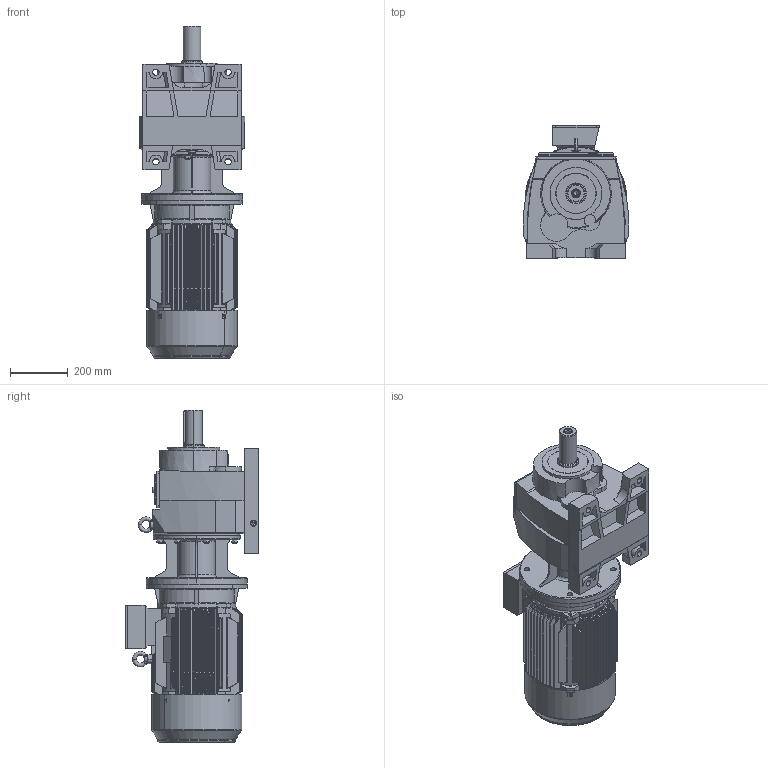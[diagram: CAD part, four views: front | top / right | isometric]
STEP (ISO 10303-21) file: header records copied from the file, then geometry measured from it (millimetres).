
FILE_DESCRIPTION (( 'STEP AP203' ), '1' );
FILE_NAME ('MV572-MV573-M3-160L.STEP', '2019-07-24T07:59:14', ( '' ), ( '' ), 'SwSTEP 2.0', 'SolidWorks 2012', '' );
FILE_SCHEMA (( 'CONFIG_CONTROL_DESIGN' ));
Products named in the file (15): Y2-160-2ª¥--®+_-++ñ; Eyebolts GB_GB_FASTENER_SCREWS_FRS M12N; Y2-160-4Ý¾6Ý¾8-ª+---®+_-++ñ; Y2-160L+À+¿(B5)_-++ñ; Y2-160ñ»ª­+¿_-++ñ; Y2-160-180ñ»ª­®+_-++ñ; MN_57_3_0_A-B16_B5_ML3A_0_0_0_0_0_0_0_0_0_0_0_0_M1; +ª+§ªiY2-160ñ»ª­_-++ñ; 53160B5_Varsayìlan; ML3A_Varsayìlan; M573_Varsayìlan; MV572-MV573-M3-160L; M3-160L-FF-B5; Y2-160_shaft; +¦i-MN2-160_-++ñ
Assembly tree (14 placements, depth 4):
  MV572-MV573-M3-160L
    MN_57_3_0_A-B16_B5_ML3A_0_0_0_0_0_0_0_0_0_0_0_0_M1
      M573_Varsayìlan
      53160B5_Varsayìlan
      ML3A_Varsayìlan
    M3-160L-FF-B5
      +ª+§ªiY2-160ñ»ª­_-++ñ
        Y2-160-180ñ»ª­®+_-++ñ
        Y2-160ñ»ª­+¿_-++ñ
      Y2-160-4Ý¾6Ý¾8-ª+---®+_-++ñ
      Y2-160L+À+¿(B5)_-++ñ
      Eyebolts GB_GB_FASTENER_SCREWS_FRS M12N
      Y2-160-2ª¥--®+_-++ñ
      +¦i-MN2-160_-++ñ
      Y2-160_shaft
Bounding box: 366 x 461.3 x 1150 mm (x, y, z)
Volume: 41414281.2 mm3; surface area: 3749218.5 mm2
Topology: 11 solids, 11 shells, 2030 faces, 5296 edges, 3367 vertices
Faces by surface type: cylinder 744, plane 667, cone 278, bspline 238, torus 63, sphere 40
Entity records: 104289 total; most frequent: CARTESIAN_POINT 55989, ORIENTED_EDGE 10496, DIRECTION 8581, EDGE_CURVE 5248, VERTEX_POINT 3352, AXIS2_PLACEMENT_3D 3190, EDGE_LOOP 2270, VECTOR 2201
